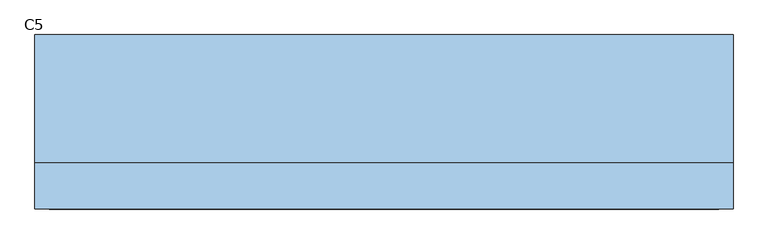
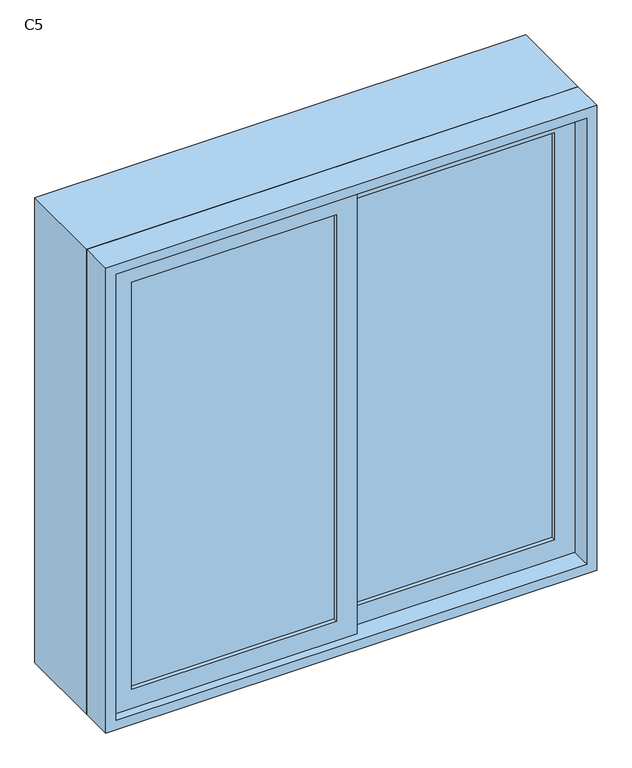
"""IFC4 building model written with IfcOpenShell, lengths in millimetres: window geometry, 推拉窗6 : C5."""

from ifc_helpers import new_model, si_unit, frame, origin, place, context, project, spatial, polyline, outline, extrude, source, transform, mapped, element, save


def c5_3e3c06b4(model_context):
    return source(origin(), model_context, "Body", "SweptSolid", [
        extrude(outline(polyline([(-515.475, -53.1265625), (-515.475, -43.1265625), (-15.475, -43.1265625), (-15.475, -53.1265625), (-515.475, -53.1265625)])), frame((0.0, 0.0, 975.0), z_axis=(0.0, 0.0, 1.0), x_axis=(1.0, 0.0, 0.0)), (0.0, 0.0, 1.0), 1050.0),
        extrude(outline(polyline([(34.525, -23.1265625), (34.525, -13.1265625), (534.525, -13.1265625), (534.525, -23.1265625), (34.525, -23.1265625)])), frame((0.0, 0.0, 975.0), z_axis=(0.0, 0.0, 1.0), x_axis=(1.0, 0.0, 0.0)), (0.0, 0.0, 1.0), 1050.0),
        extrude(outline(polyline([(2100.0, -590.475), (900.0, -590.475), (900.0, 609.525), (2100.0, 609.525), (2100.0, -590.475)]), holes=[polyline([(2045.0, 559.525), (955.0, 559.525), (955.0, -540.475), (2045.0, -540.475), (2045.0, 559.525)])]), frame((0.0, -3.1265625, 0.0), z_axis=(0.0, 1.0, 0.0), x_axis=(0.0, 0.0, 1.0)), (0.0, 0.0, 1.0), 220.0),
        extrude(outline(polyline([(925.0, 34.525), (2075.0, 34.525), (2075.0, -565.475), (925.0, -565.475), (925.0, 34.525)]), holes=[polyline([(975.0, -15.475), (975.0, -515.475), (2025.0, -515.475), (2025.0, -15.475), (975.0, -15.475)])]), frame((0.0, -63.1265625, 0.0), z_axis=(0.0, 1.0, 0.0), x_axis=(0.0, 0.0, 1.0)), (0.0, 0.0, 1.0), 30.0),
        extrude(outline(polyline([(2075.0, -15.475), (925.0, -15.475), (925.0, 584.525), (2075.0, 584.525), (2075.0, -15.475)]), holes=[polyline([(2025.0, 34.525), (2025.0, 534.525), (975.0, 534.525), (975.0, 34.525), (2025.0, 34.525)])]), frame((0.0, -33.1265625, 0.0), z_axis=(0.0, 1.0, 0.0), x_axis=(0.0, 0.0, 1.0)), (0.0, 0.0, 1.0), 30.0),
        extrude(outline(polyline([(2100.0, -590.475), (900.0, -590.475), (900.0, 609.525), (2100.0, 609.525), (2100.0, -590.475)]), holes=[polyline([(925.0, -565.475), (2075.0, -565.475), (2075.0, 584.525), (925.0, 584.525), (925.0, -565.475)])]), frame((0.0, -83.1265625, 0.0), z_axis=(0.0, 1.0, 0.0), x_axis=(0.0, 0.0, 1.0)), (0.0, 0.0, 1.0), 80.0),
    ])


if __name__ == "__main__":
    model = new_model("IFC4")
    model_context = context("Model", 3, world=origin())
    ifc_project = project(units=[si_unit("LENGTHUNIT", "METRE", prefix="MILLI")], contexts=[model_context])
    site = spatial("IfcSite", under=ifc_project)
    building = spatial("IfcBuilding", under=site)
    placement = place(None, origin())
    c5_shape = c5_3e3c06b4(model_context)
    element("IfcWindow", 1, ObjectType="推拉窗6 : C5", at=placement, inside=building, context=model_context, shape_type="MappedRepresentation", body=[
        mapped(c5_shape, transform((0.0, 0.0, 0.0), x_axis=(1.0, 0.0, 0.0), y_axis=(0.0, 1.0, 0.0), z_axis=(0.0, 0.0, 1.0))),
    ])
    save(model, "model.ifc")
